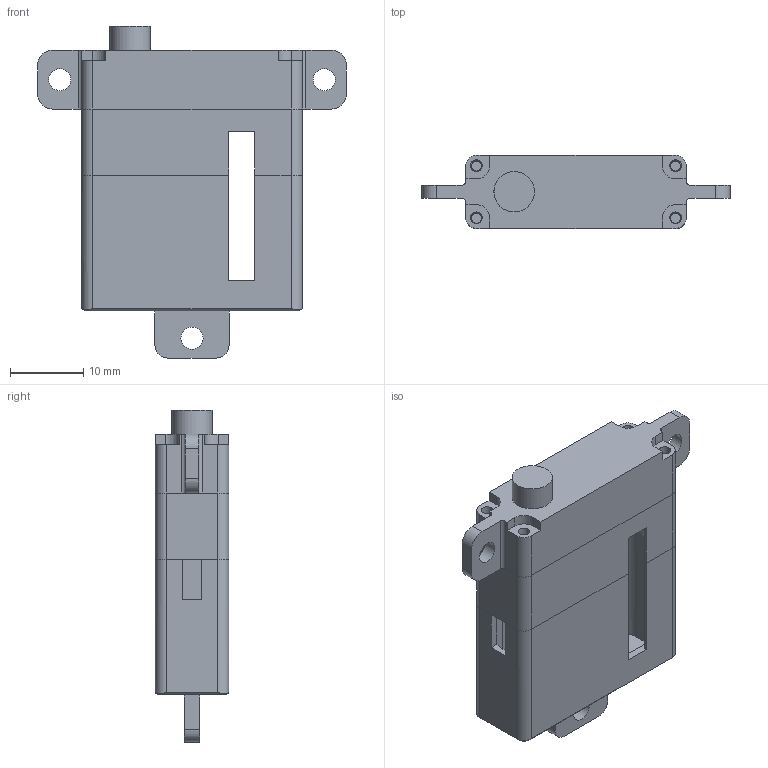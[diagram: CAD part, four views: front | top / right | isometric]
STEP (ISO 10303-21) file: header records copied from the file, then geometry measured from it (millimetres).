
FILE_DESCRIPTION(/* description */ (''),/* implementation_level */ '2;1');
FILE_NAME(/* name */ 'KST-X10',/* time_stamp */ '2018-04-10T08:26:32+08:00',/* author */ (''),/* organization */ (''),/* preprocessor_version */ 'ST-DEVELOPER v9',/* originating_system */ 'UGS - NX 4.0',/* authorisation */ '');
FILE_SCHEMA (('CONFIG_CONTROL_DESIGN'));
Length unit declared in the file: millimetre
Products named in the file (1): Admi15ADy10r
Bounding box: 42 x 10 x 45.2 mm (x, y, z)
Volume: 4350.3 mm3; surface area: 7592.4 mm2
Topology: 4 solids, 4 shells, 228 faces, 650 edges, 437 vertices
Faces by surface type: plane 136, cylinder 87, cone 5
Full cylindrical faces by diameter (mm): 1.4 x4, 1.5 x1, 1.6 x8, 2.7 x1, 3 x3, 3.5 x1, 4.2 x1, 5.5 x2, 7.8 x1, 8 x2
Entity records: 7443 total; most frequent: CARTESIAN_POINT 1363, DIRECTION 1281, ORIENTED_EDGE 1212, EDGE_CURVE 606, AXIS2_PLACEMENT_3D 453, VERTEX_POINT 417, LINE 375, VECTOR 375
